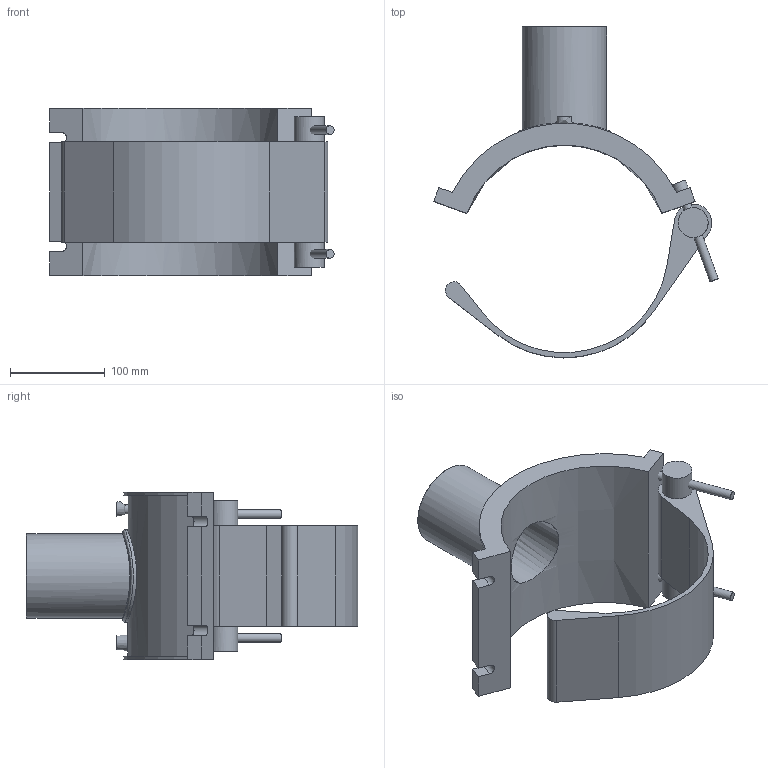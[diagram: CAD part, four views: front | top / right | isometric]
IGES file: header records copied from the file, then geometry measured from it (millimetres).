
Global section: file name: 5958BB03080030.ipt; native system: Autodesk Inventor 2019; preprocessor: unknown; author: KIM; date: 20210830.101303; units: inch
Bounding box: 299.54 x 349.64 x 176.02 mm (x, y, z)
Volume: 1752151.4 mm3; surface area: 297912.2 mm2
Topology: 5 solids, 5 shells, 65 faces, 135 edges, 91 vertices
Faces by surface type: plane 37, cylinder 17, revolution 7, cone 3, bspline 1
Full cylindrical faces by diameter (mm): 4 x2, 9.185 x2, 15.309 x2, 31.493 x2, 88.7 x1, 97.57 x1
